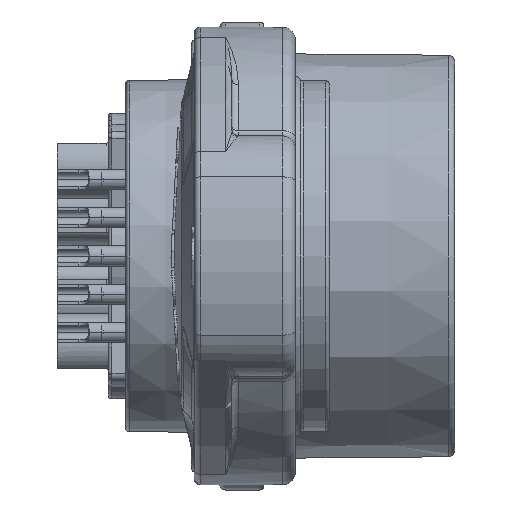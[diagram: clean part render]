
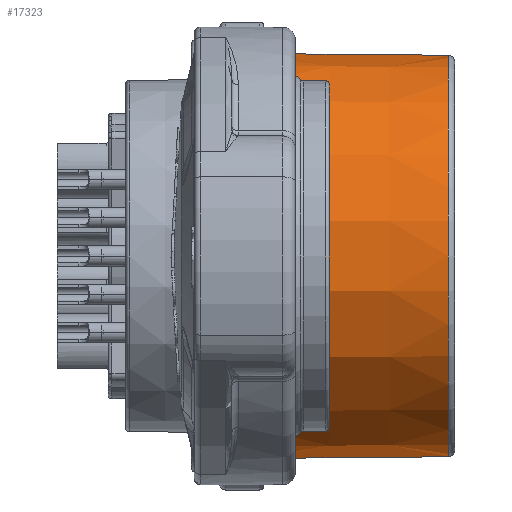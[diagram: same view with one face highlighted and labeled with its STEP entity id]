
A CAD part, front view. The second image highlights one B-rep face of the part: STEP entity #17323.
In plain terms, the highlighted conical face has half-angle 0.5 degrees and reference radius 16 mm.
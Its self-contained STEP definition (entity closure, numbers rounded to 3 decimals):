
#587 = VECTOR ( 'NONE', #30942, 1000. ) ;
#2079 = FACE_OUTER_BOUND ( 'NONE', #42270, .T. ) ;
#5577 = VERTEX_POINT ( 'NONE', #15445 ) ;
#12407 = ORIENTED_EDGE ( 'NONE', *, *, #48180, .T. ) ;
#15445 = CARTESIAN_POINT ( 'NONE',  ( -0.496, 0., 15.873 ) ) ;
#15638 = LINE ( 'NONE', #37660, #34570 ) ;
#17323 = ADVANCED_FACE ( 'NONE', ( #2079 ), #24286, .T. ) ;
#17904 = CARTESIAN_POINT ( 'NONE',  ( -14.604, 0., 0. ) ) ;
#24286 = CONICAL_SURFACE ( 'NONE', #33883, 16., 0.009 ) ;
#24669 = DIRECTION ( 'NONE',  ( 0., 0., -1. ) ) ;
#24834 = CARTESIAN_POINT ( 'NONE',  ( -15.1, 0., 0. ) ) ;
#25031 = CARTESIAN_POINT ( 'NONE',  ( -0.496, 0., 0. ) ) ;
#25317 = LINE ( 'NONE', #59634, #587 ) ;
#25637 = EDGE_CURVE ( 'NONE', #32456, #5577, #65307, .T. ) ;
#27528 = ORIENTED_EDGE ( 'NONE', *, *, #32160, .F. ) ;
#28943 = AXIS2_PLACEMENT_3D ( 'NONE', #17904, #57785, #35057 ) ;
#30942 = DIRECTION ( 'NONE',  ( -1., 0., 0.009 ) ) ;
#32160 = EDGE_CURVE ( 'NONE', #32456, #70350, #15638, .T. ) ;
#32456 = VERTEX_POINT ( 'NONE', #72997 ) ;
#33624 = CARTESIAN_POINT ( 'NONE',  ( -14.604, 0., -15.996 ) ) ;
#33822 = CARTESIAN_POINT ( 'NONE',  ( -14.604, 0., 15.996 ) ) ;
#33883 = AXIS2_PLACEMENT_3D ( 'NONE', #24834, #69996, #53170 ) ;
#34570 = VECTOR ( 'NONE', #61124, 1000. ) ;
#35057 = DIRECTION ( 'NONE',  ( 0., 0., 1. ) ) ;
#36667 = VERTEX_POINT ( 'NONE', #33822 ) ;
#37660 = CARTESIAN_POINT ( 'NONE',  ( -15.1, 0., -16. ) ) ;
#42206 = DIRECTION ( 'NONE',  ( -1., 0., 0. ) ) ;
#42270 = EDGE_LOOP ( 'NONE', ( #72961, #12407, #64201, #27528 ) ) ;
#48180 = EDGE_CURVE ( 'NONE', #5577, #36667, #25317, .T. ) ;
#53170 = DIRECTION ( 'NONE',  ( 0., 0., -1. ) ) ;
#57785 = DIRECTION ( 'NONE',  ( 1., 0., 0. ) ) ;
#59634 = CARTESIAN_POINT ( 'NONE',  ( -15.1, 0., 16. ) ) ;
#61124 = DIRECTION ( 'NONE',  ( -1., 0., -0.009 ) ) ;
#64124 = AXIS2_PLACEMENT_3D ( 'NONE', #25031, #42206, #24669 ) ;
#64201 = ORIENTED_EDGE ( 'NONE', *, *, #69340, .T. ) ;
#65307 = CIRCLE ( 'NONE', #64124, 15.873 ) ;
#69340 = EDGE_CURVE ( 'NONE', #36667, #70350, #69467, .T. ) ;
#69467 = CIRCLE ( 'NONE', #28943, 15.996 ) ;
#69996 = DIRECTION ( 'NONE',  ( -1., 0., 0. ) ) ;
#70350 = VERTEX_POINT ( 'NONE', #33624 ) ;
#72961 = ORIENTED_EDGE ( 'NONE', *, *, #25637, .T. ) ;
#72997 = CARTESIAN_POINT ( 'NONE',  ( -0.496, 0., -15.873 ) ) ;
